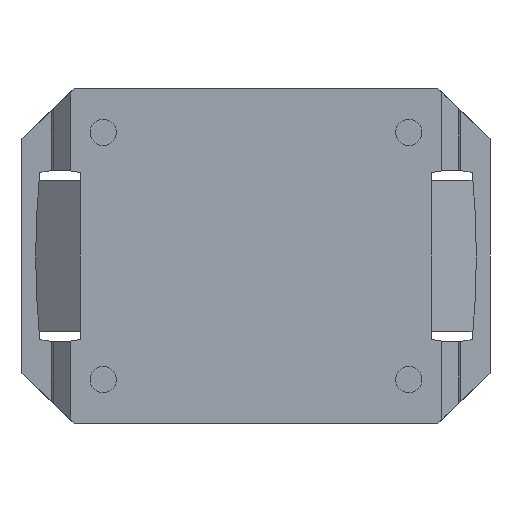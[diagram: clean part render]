
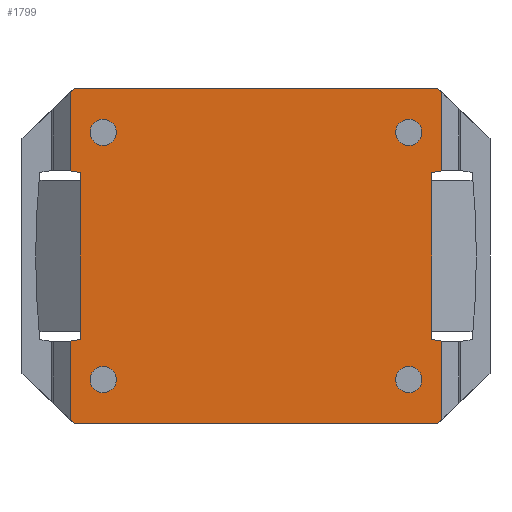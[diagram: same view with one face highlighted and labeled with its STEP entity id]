
A CAD part, front view. The second image highlights one B-rep face of the part: STEP entity #1799.
In plain terms, the highlighted planar face has unit normal (0, -1, 0).
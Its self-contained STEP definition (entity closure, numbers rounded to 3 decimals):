
#151=LINE('',#3030,#311);
#153=LINE('',#3036,#313);
#156=LINE('',#3044,#316);
#170=LINE('',#3096,#330);
#178=LINE('',#3119,#338);
#181=LINE('',#3130,#341);
#193=LINE('',#3154,#353);
#195=LINE('',#3157,#355);
#201=LINE('',#3175,#361);
#207=LINE('',#3191,#367);
#208=LINE('',#3193,#368);
#209=LINE('',#3195,#369);
#311=VECTOR('',#2360,1000.);
#313=VECTOR('',#2366,1000.);
#316=VECTOR('',#2373,1000.);
#330=VECTOR('',#2427,1000.);
#338=VECTOR('',#2451,1000.);
#341=VECTOR('',#2466,1000.);
#353=VECTOR('',#2486,1000.);
#355=VECTOR('',#2490,1000.);
#361=VECTOR('',#2508,1000.);
#367=VECTOR('',#2526,1000.);
#368=VECTOR('',#2529,1000.);
#369=VECTOR('',#2530,1000.);
#461=PLANE('',#2016);
#921=ORIENTED_EDGE('',*,*,#1152,.T.);
#922=ORIENTED_EDGE('',*,*,#1151,.T.);
#923=ORIENTED_EDGE('',*,*,#1150,.T.);
#924=ORIENTED_EDGE('',*,*,#1149,.T.);
#925=ORIENTED_EDGE('',*,*,#1147,.F.);
#926=ORIENTED_EDGE('',*,*,#1222,.T.);
#927=ORIENTED_EDGE('',*,*,#1223,.T.);
#928=ORIENTED_EDGE('',*,*,#1224,.T.);
#929=ORIENTED_EDGE('',*,*,#1172,.T.);
#930=ORIENTED_EDGE('',*,*,#1181,.T.);
#931=ORIENTED_EDGE('',*,*,#1184,.T.);
#932=ORIENTED_EDGE('',*,*,#1185,.T.);
#933=ORIENTED_EDGE('',*,*,#1143,.T.);
#934=ORIENTED_EDGE('',*,*,#1190,.T.);
#935=ORIENTED_EDGE('',*,*,#1202,.T.);
#936=ORIENTED_EDGE('',*,*,#1204,.T.);
#937=ORIENTED_EDGE('',*,*,#1140,.F.);
#938=ORIENTED_EDGE('',*,*,#1211,.F.);
#939=ORIENTED_EDGE('',*,*,#1213,.T.);
#940=ORIENTED_EDGE('',*,*,#1215,.T.);
#1140=EDGE_CURVE('',#1350,#1351,#151,.T.);
#1143=EDGE_CURVE('',#1352,#1353,#153,.T.);
#1147=EDGE_CURVE('',#1354,#1355,#156,.T.);
#1149=EDGE_CURVE('',#1356,#1356,#1432,.T.);
#1150=EDGE_CURVE('',#1357,#1357,#1433,.T.);
#1151=EDGE_CURVE('',#1358,#1358,#1434,.T.);
#1152=EDGE_CURVE('',#1359,#1359,#1435,.T.);
#1172=EDGE_CURVE('',#1373,#1372,#170,.T.);
#1181=EDGE_CURVE('',#1372,#1377,#1437,.F.);
#1184=EDGE_CURVE('',#1377,#1379,#178,.T.);
#1185=EDGE_CURVE('',#1379,#1352,#1438,.F.);
#1190=EDGE_CURVE('',#1353,#1382,#181,.T.);
#1202=EDGE_CURVE('',#1382,#1389,#193,.T.);
#1204=EDGE_CURVE('',#1389,#1351,#195,.T.);
#1211=EDGE_CURVE('',#1393,#1350,#1441,.F.);
#1213=EDGE_CURVE('',#1393,#1394,#201,.T.);
#1215=EDGE_CURVE('',#1394,#1355,#1442,.F.);
#1222=EDGE_CURVE('',#1354,#1399,#207,.T.);
#1223=EDGE_CURVE('',#1399,#1400,#208,.T.);
#1224=EDGE_CURVE('',#1400,#1373,#209,.T.);
#1350=VERTEX_POINT('',#3031);
#1351=VERTEX_POINT('',#3032);
#1352=VERTEX_POINT('',#3037);
#1353=VERTEX_POINT('',#3038);
#1354=VERTEX_POINT('',#3043);
#1355=VERTEX_POINT('',#3045);
#1356=VERTEX_POINT('',#3049);
#1357=VERTEX_POINT('',#3052);
#1358=VERTEX_POINT('',#3055);
#1359=VERTEX_POINT('',#3058);
#1372=VERTEX_POINT('',#3095);
#1373=VERTEX_POINT('',#3097);
#1377=VERTEX_POINT('',#3112);
#1379=VERTEX_POINT('',#3118);
#1382=VERTEX_POINT('',#3131);
#1389=VERTEX_POINT('',#3153);
#1393=VERTEX_POINT('',#3169);
#1394=VERTEX_POINT('',#3173);
#1399=VERTEX_POINT('',#3190);
#1400=VERTEX_POINT('',#3194);
#1432=CIRCLE('',#1967,9.);
#1433=CIRCLE('',#1969,9.);
#1434=CIRCLE('',#1971,9.);
#1435=CIRCLE('',#1973,9.);
#1437=CIRCLE('',#1991,60.);
#1438=CIRCLE('',#1994,60.);
#1441=CIRCLE('',#2008,60.);
#1442=CIRCLE('',#2011,60.);
#1562=EDGE_LOOP('',(#921));
#1563=EDGE_LOOP('',(#922));
#1564=EDGE_LOOP('',(#923));
#1565=EDGE_LOOP('',(#924));
#1566=EDGE_LOOP('',(#925,#926,#927,#928,#929,#930,#931,#932,#933,#934,#935,
#936,#937,#938,#939,#940));
#1691=FACE_BOUND('',#1562,.T.);
#1692=FACE_BOUND('',#1563,.T.);
#1693=FACE_BOUND('',#1564,.T.);
#1694=FACE_BOUND('',#1565,.T.);
#1695=FACE_BOUND('',#1566,.T.);
#1799=ADVANCED_FACE('',(#1691,#1692,#1693,#1694,#1695),#461,.T.);
#1967=AXIS2_PLACEMENT_3D('',#3048,#2378,#2379);
#1969=AXIS2_PLACEMENT_3D('',#3051,#2382,#2383);
#1971=AXIS2_PLACEMENT_3D('',#3054,#2386,#2387);
#1973=AXIS2_PLACEMENT_3D('',#3057,#2390,#2391);
#1991=AXIS2_PLACEMENT_3D('',#3113,#2445,#2446);
#1994=AXIS2_PLACEMENT_3D('',#3121,#2454,#2455);
#2008=AXIS2_PLACEMENT_3D('',#3170,#2503,#2504);
#2011=AXIS2_PLACEMENT_3D('',#3178,#2512,#2513);
#2016=AXIS2_PLACEMENT_3D('',#3192,#2527,#2528);
#2360=DIRECTION('',(0.,0.,-1.));
#2366=DIRECTION('',(0.,0.,-1.));
#2373=DIRECTION('',(0.,0.,-1.));
#2378=DIRECTION('',(0.,1.,0.));
#2379=DIRECTION('',(1.,0.,0.));
#2382=DIRECTION('',(0.,1.,0.));
#2383=DIRECTION('',(1.,0.,0.));
#2386=DIRECTION('',(0.,1.,0.));
#2387=DIRECTION('',(1.,0.,0.));
#2390=DIRECTION('',(0.,1.,0.));
#2391=DIRECTION('',(1.,0.,0.));
#2427=DIRECTION('',(0.,0.,-1.));
#2445=DIRECTION('',(0.,-1.,0.));
#2446=DIRECTION('',(0.,0.,-1.));
#2451=DIRECTION('',(0.,0.,-1.));
#2454=DIRECTION('',(0.,-1.,0.));
#2455=DIRECTION('',(0.,0.,-1.));
#2466=DIRECTION('',(0.721,0.,-0.693));
#2486=DIRECTION('',(1.,0.,0.));
#2490=DIRECTION('',(0.721,0.,0.693));
#2503=DIRECTION('',(0.,1.,0.));
#2504=DIRECTION('',(0.,0.,-1.));
#2508=DIRECTION('',(0.,0.,1.));
#2512=DIRECTION('',(0.,-1.,0.));
#2513=DIRECTION('',(0.,0.,-1.));
#2526=DIRECTION('',(-0.721,0.,0.693));
#2527=DIRECTION('',(0.,-1.,0.));
#2528=DIRECTION('',(0.,0.,-1.));
#2529=DIRECTION('',(-1.,0.,0.));
#2530=DIRECTION('',(-0.721,0.,-0.693));
#3030=CARTESIAN_POINT('',(126.667,0.,0.));
#3031=CARTESIAN_POINT('',(126.667,0.,-58.146));
#3032=CARTESIAN_POINT('',(126.667,0.,-112.199));
#3036=CARTESIAN_POINT('',(-126.667,0.,0.));
#3037=CARTESIAN_POINT('',(-126.667,0.,-58.146));
#3038=CARTESIAN_POINT('',(-126.667,0.,-112.199));
#3043=CARTESIAN_POINT('',(126.667,0.,112.199));
#3044=CARTESIAN_POINT('',(126.667,0.,0.));
#3045=CARTESIAN_POINT('',(126.667,0.,58.146));
#3048=CARTESIAN_POINT('',(-104.5,0.,-84.5));
#3049=CARTESIAN_POINT('',(-95.5,0.,-84.5));
#3051=CARTESIAN_POINT('',(104.5,0.,-84.5));
#3052=CARTESIAN_POINT('',(113.5,0.,-84.5));
#3054=CARTESIAN_POINT('',(104.5,0.,84.5));
#3055=CARTESIAN_POINT('',(113.5,0.,84.5));
#3057=CARTESIAN_POINT('',(-104.5,0.,84.5));
#3058=CARTESIAN_POINT('',(-95.5,0.,84.5));
#3095=CARTESIAN_POINT('',(-126.667,0.,58.146));
#3096=CARTESIAN_POINT('',(-126.667,0.,0.));
#3097=CARTESIAN_POINT('',(-126.667,0.,112.199));
#3112=CARTESIAN_POINT('',(-120.3,0.,57.));
#3113=CARTESIAN_POINT('',(-134.1,0.,-1.391));
#3118=CARTESIAN_POINT('',(-120.3,0.,-57.));
#3119=CARTESIAN_POINT('',(-120.3,0.,0.));
#3121=CARTESIAN_POINT('',(-134.1,0.,1.391));
#3130=CARTESIAN_POINT('',(-160.,0.,-80.189));
#3131=CARTESIAN_POINT('',(-124.115,0.,-114.65));
#3153=CARTESIAN_POINT('',(124.115,0.,-114.65));
#3154=CARTESIAN_POINT('',(124.115,0.,-114.65));
#3157=CARTESIAN_POINT('',(160.,0.,-80.189));
#3169=CARTESIAN_POINT('',(120.3,0.,-57.));
#3170=CARTESIAN_POINT('',(134.1,0.,1.391));
#3173=CARTESIAN_POINT('',(120.3,0.,57.));
#3175=CARTESIAN_POINT('',(120.3,0.,0.));
#3178=CARTESIAN_POINT('',(134.1,0.,-1.391));
#3190=CARTESIAN_POINT('',(124.115,0.,114.65));
#3191=CARTESIAN_POINT('',(160.,0.,80.189));
#3192=CARTESIAN_POINT('',(0.,0.,0.));
#3193=CARTESIAN_POINT('',(-124.115,0.,114.65));
#3194=CARTESIAN_POINT('',(-124.115,0.,114.65));
#3195=CARTESIAN_POINT('',(-160.,0.,80.189));
